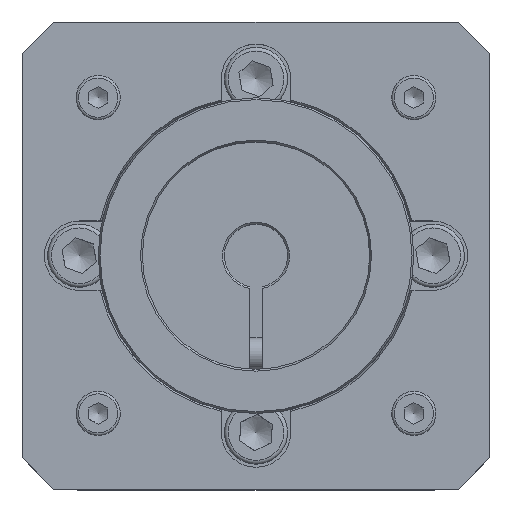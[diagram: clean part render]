
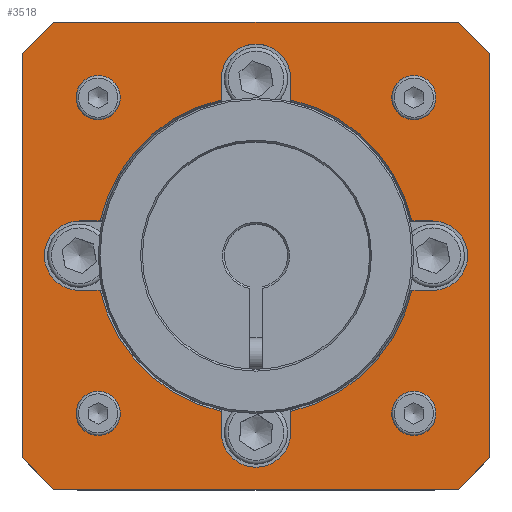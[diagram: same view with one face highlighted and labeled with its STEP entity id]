
A CAD part, top view. The second image highlights one B-rep face of the part: STEP entity #3518.
In plain terms, the highlighted planar face has unit normal (0, 0, 1).
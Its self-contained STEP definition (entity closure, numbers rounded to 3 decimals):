
#268=LINE($,#5978,#470);
#274=LINE($,#5991,#476);
#275=LINE($,#5993,#477);
#276=LINE($,#5995,#478);
#277=LINE($,#5997,#479);
#278=LINE($,#5999,#480);
#279=LINE($,#6001,#481);
#280=LINE($,#6003,#482);
#281=LINE($,#6004,#483);
#282=LINE($,#6006,#484);
#283=LINE($,#6010,#485);
#284=LINE($,#6014,#486);
#285=LINE($,#6018,#487);
#286=LINE($,#6022,#488);
#287=LINE($,#6026,#489);
#288=LINE($,#6030,#490);
#470=VECTOR($,#4736,3.317);
#476=VECTOR($,#4744,7.071);
#477=VECTOR($,#4745,64.);
#478=VECTOR($,#4746,7.071);
#479=VECTOR($,#4747,64.);
#480=VECTOR($,#4748,7.071);
#481=VECTOR($,#4749,64.);
#482=VECTOR($,#4750,7.071);
#483=VECTOR($,#4751,64.);
#484=VECTOR($,#4752,3.317);
#485=VECTOR($,#4755,3.317);
#486=VECTOR($,#4758,3.317);
#487=VECTOR($,#4761,3.317);
#488=VECTOR($,#4764,3.317);
#489=VECTOR($,#4767,3.317);
#490=VECTOR($,#4770,3.317);
#628=PLANE($,#3900);
#828=FACE_BOUND($,#1323,.T.);
#829=FACE_BOUND($,#1324,.T.);
#830=FACE_BOUND($,#1325,.T.);
#831=FACE_BOUND($,#1326,.T.);
#832=FACE_BOUND($,#1327,.T.);
#833=FACE_BOUND($,#1328,.T.);
#1323=EDGE_LOOP($,(#2955));
#1324=EDGE_LOOP($,(#2956));
#1325=EDGE_LOOP($,(#2957));
#1326=EDGE_LOOP($,(#2958));
#1327=EDGE_LOOP($,(#2959,#2960,#2961,#2962,#2963,#2964,#2965,#2966));
#1328=EDGE_LOOP($,(#2967,#2968,#2969,#2970,#2971,#2972,#2973,#2974,#2975,
#2976,#2977,#2978,#2979,#2980,#2981,#2982));
#1572=CIRCLE($,#3886,1.621);
#1574=CIRCLE($,#3889,1.621);
#1576=CIRCLE($,#3892,1.621);
#1578=CIRCLE($,#3895,1.621);
#1579=CIRCLE($,#3897,25.289);
#1581=CIRCLE($,#3901,5.5);
#1582=CIRCLE($,#3902,25.289);
#1583=CIRCLE($,#3903,5.5);
#1584=CIRCLE($,#3904,25.289);
#1585=CIRCLE($,#3905,5.5);
#1586=CIRCLE($,#3906,25.289);
#1587=CIRCLE($,#3907,5.5);
#1833=VERTEX_POINT($,#5946);
#1835=VERTEX_POINT($,#5951);
#1837=VERTEX_POINT($,#5956);
#1839=VERTEX_POINT($,#5961);
#1841=VERTEX_POINT($,#5965);
#1842=VERTEX_POINT($,#5969);
#1844=VERTEX_POINT($,#5977);
#1849=VERTEX_POINT($,#5989);
#1850=VERTEX_POINT($,#5990);
#1851=VERTEX_POINT($,#5992);
#1852=VERTEX_POINT($,#5994);
#1853=VERTEX_POINT($,#5996);
#1854=VERTEX_POINT($,#5998);
#1855=VERTEX_POINT($,#6000);
#1856=VERTEX_POINT($,#6002);
#1857=VERTEX_POINT($,#6005);
#1858=VERTEX_POINT($,#6007);
#1859=VERTEX_POINT($,#6009);
#1860=VERTEX_POINT($,#6011);
#1861=VERTEX_POINT($,#6013);
#1862=VERTEX_POINT($,#6015);
#1863=VERTEX_POINT($,#6017);
#1864=VERTEX_POINT($,#6019);
#1865=VERTEX_POINT($,#6021);
#1866=VERTEX_POINT($,#6023);
#1867=VERTEX_POINT($,#6025);
#1868=VERTEX_POINT($,#6027);
#1869=VERTEX_POINT($,#6029);
#2231=EDGE_CURVE($,#1833,#1833,#1572,.T.);
#2233=EDGE_CURVE($,#1835,#1835,#1574,.T.);
#2235=EDGE_CURVE($,#1837,#1837,#1576,.T.);
#2237=EDGE_CURVE($,#1839,#1839,#1578,.T.);
#2239=EDGE_CURVE($,#1841,#1842,#1579,.T.);
#2242=EDGE_CURVE($,#1844,#1842,#268,.T.);
#2248=EDGE_CURVE($,#1849,#1850,#274,.T.);
#2249=EDGE_CURVE($,#1851,#1849,#275,.T.);
#2250=EDGE_CURVE($,#1852,#1851,#276,.T.);
#2251=EDGE_CURVE($,#1853,#1852,#277,.T.);
#2252=EDGE_CURVE($,#1854,#1853,#278,.T.);
#2253=EDGE_CURVE($,#1855,#1854,#279,.T.);
#2254=EDGE_CURVE($,#1856,#1855,#280,.T.);
#2255=EDGE_CURVE($,#1850,#1856,#281,.T.);
#2256=EDGE_CURVE($,#1841,#1857,#282,.T.);
#2257=EDGE_CURVE($,#1857,#1858,#1581,.T.);
#2258=EDGE_CURVE($,#1858,#1859,#283,.T.);
#2259=EDGE_CURVE($,#1860,#1859,#1582,.T.);
#2260=EDGE_CURVE($,#1860,#1861,#284,.T.);
#2261=EDGE_CURVE($,#1861,#1862,#1583,.T.);
#2262=EDGE_CURVE($,#1862,#1863,#285,.T.);
#2263=EDGE_CURVE($,#1864,#1863,#1584,.T.);
#2264=EDGE_CURVE($,#1864,#1865,#286,.T.);
#2265=EDGE_CURVE($,#1865,#1866,#1585,.T.);
#2266=EDGE_CURVE($,#1866,#1867,#287,.T.);
#2267=EDGE_CURVE($,#1868,#1867,#1586,.T.);
#2268=EDGE_CURVE($,#1868,#1869,#288,.T.);
#2269=EDGE_CURVE($,#1869,#1844,#1587,.T.);
#2955=ORIENTED_EDGE($,*,*,#2231,.T.);
#2956=ORIENTED_EDGE($,*,*,#2233,.T.);
#2957=ORIENTED_EDGE($,*,*,#2235,.T.);
#2958=ORIENTED_EDGE($,*,*,#2237,.T.);
#2959=ORIENTED_EDGE($,*,*,#2248,.F.);
#2960=ORIENTED_EDGE($,*,*,#2249,.F.);
#2961=ORIENTED_EDGE($,*,*,#2250,.F.);
#2962=ORIENTED_EDGE($,*,*,#2251,.F.);
#2963=ORIENTED_EDGE($,*,*,#2252,.F.);
#2964=ORIENTED_EDGE($,*,*,#2253,.F.);
#2965=ORIENTED_EDGE($,*,*,#2254,.F.);
#2966=ORIENTED_EDGE($,*,*,#2255,.F.);
#2967=ORIENTED_EDGE($,*,*,#2239,.F.);
#2968=ORIENTED_EDGE($,*,*,#2256,.T.);
#2969=ORIENTED_EDGE($,*,*,#2257,.T.);
#2970=ORIENTED_EDGE($,*,*,#2258,.T.);
#2971=ORIENTED_EDGE($,*,*,#2259,.F.);
#2972=ORIENTED_EDGE($,*,*,#2260,.T.);
#2973=ORIENTED_EDGE($,*,*,#2261,.T.);
#2974=ORIENTED_EDGE($,*,*,#2262,.T.);
#2975=ORIENTED_EDGE($,*,*,#2263,.F.);
#2976=ORIENTED_EDGE($,*,*,#2264,.T.);
#2977=ORIENTED_EDGE($,*,*,#2265,.T.);
#2978=ORIENTED_EDGE($,*,*,#2266,.T.);
#2979=ORIENTED_EDGE($,*,*,#2267,.F.);
#2980=ORIENTED_EDGE($,*,*,#2268,.T.);
#2981=ORIENTED_EDGE($,*,*,#2269,.T.);
#2982=ORIENTED_EDGE($,*,*,#2242,.T.);
#3518=ADVANCED_FACE($,(#828,#829,#830,#831,#832,#833),#628,.T.);
#3886=AXIS2_PLACEMENT_3D($,#5947,#4708,#4709);
#3889=AXIS2_PLACEMENT_3D($,#5952,#4714,#4715);
#3892=AXIS2_PLACEMENT_3D($,#5957,#4720,#4721);
#3895=AXIS2_PLACEMENT_3D($,#5962,#4726,#4727);
#3897=AXIS2_PLACEMENT_3D($,#5970,#4730,#4731);
#3900=AXIS2_PLACEMENT_3D($,#5988,#4742,#4743);
#3901=AXIS2_PLACEMENT_3D($,#6008,#4753,#4754);
#3902=AXIS2_PLACEMENT_3D($,#6012,#4756,#4757);
#3903=AXIS2_PLACEMENT_3D($,#6016,#4759,#4760);
#3904=AXIS2_PLACEMENT_3D($,#6020,#4762,#4763);
#3905=AXIS2_PLACEMENT_3D($,#6024,#4765,#4766);
#3906=AXIS2_PLACEMENT_3D($,#6028,#4768,#4769);
#3907=AXIS2_PLACEMENT_3D($,#6031,#4771,#4772);
#4708=DIRECTION('center_axis',(0.,0.,-1.));
#4709=DIRECTION('ref_axis',(1.,0.,0.));
#4714=DIRECTION('center_axis',(0.,0.,-1.));
#4715=DIRECTION('ref_axis',(1.,0.,0.));
#4720=DIRECTION('center_axis',(0.,0.,-1.));
#4721=DIRECTION('ref_axis',(1.,0.,0.));
#4726=DIRECTION('center_axis',(0.,0.,-1.));
#4727=DIRECTION('ref_axis',(1.,0.,0.));
#4730=DIRECTION('center_axis',(0.,0.,1.));
#4731=DIRECTION('ref_axis',(0.,-1.,0.));
#4736=DIRECTION($,(0.,1.,0.));
#4742=DIRECTION('center_axis',(0.,0.,1.));
#4743=DIRECTION('ref_axis',(1.,0.,0.));
#4744=DIRECTION($,(0.707,-0.707,0.));
#4745=DIRECTION($,(1.,0.,0.));
#4746=DIRECTION($,(0.707,0.707,0.));
#4747=DIRECTION($,(0.,1.,0.));
#4748=DIRECTION($,(-0.707,0.707,0.));
#4749=DIRECTION($,(-1.,0.,0.));
#4750=DIRECTION($,(-0.707,-0.707,0.));
#4751=DIRECTION($,(0.,-1.,0.));
#4752=DIRECTION($,(-1.,0.,0.));
#4753=DIRECTION('center_axis',(0.,0.,-1.));
#4754=DIRECTION('ref_axis',(1.,0.,0.));
#4755=DIRECTION($,(1.,0.,0.));
#4756=DIRECTION('center_axis',(0.,0.,1.));
#4757=DIRECTION('ref_axis',(0.,1.,0.));
#4758=DIRECTION($,(0.,1.,0.));
#4759=DIRECTION('center_axis',(0.,0.,-1.));
#4760=DIRECTION('ref_axis',(1.,0.,0.));
#4761=DIRECTION($,(0.,-1.,0.));
#4762=DIRECTION('center_axis',(0.,0.,1.));
#4763=DIRECTION('ref_axis',(0.,1.,0.));
#4764=DIRECTION($,(1.,0.,0.));
#4765=DIRECTION('center_axis',(0.,0.,-1.));
#4766=DIRECTION('ref_axis',(1.,0.,0.));
#4767=DIRECTION($,(-1.,0.,0.));
#4768=DIRECTION('center_axis',(0.,0.,1.));
#4769=DIRECTION('ref_axis',(0.,-1.,0.));
#4770=DIRECTION($,(0.,-1.,0.));
#4771=DIRECTION('center_axis',(0.,0.,-1.));
#4772=DIRECTION('ref_axis',(1.,0.,0.));
#5946=CARTESIAN_POINT('',(-23.379,-25.,16.));
#5947=CARTESIAN_POINT('Origin',(-25.,-25.,16.));
#5951=CARTESIAN_POINT('',(26.621,-25.,16.));
#5952=CARTESIAN_POINT('Origin',(25.,-25.,16.));
#5956=CARTESIAN_POINT('',(26.621,25.,16.));
#5957=CARTESIAN_POINT('Origin',(25.,25.,16.));
#5961=CARTESIAN_POINT('',(-23.379,25.,16.));
#5962=CARTESIAN_POINT('Origin',(-25.,25.,16.));
#5965=CARTESIAN_POINT('',(-24.683,-5.5,16.));
#5969=CARTESIAN_POINT('',(-5.5,-24.683,16.));
#5970=CARTESIAN_POINT('Origin',(0.,0.,16.));
#5977=CARTESIAN_POINT('',(-5.5,-28.,16.));
#5978=CARTESIAN_POINT($,(-5.5,-2.75,16.));
#5988=CARTESIAN_POINT('Origin',(0.,0.,16.));
#5989=CARTESIAN_POINT('',(32.,37.,16.));
#5990=CARTESIAN_POINT('',(37.,32.,16.));
#5991=CARTESIAN_POINT($,(34.5,34.5,16.));
#5992=CARTESIAN_POINT('',(-32.,37.,16.));
#5993=CARTESIAN_POINT($,(-37.,37.,16.));
#5994=CARTESIAN_POINT('',(-37.,32.,16.));
#5995=CARTESIAN_POINT($,(-34.5,34.5,16.));
#5996=CARTESIAN_POINT('',(-37.,-32.,16.));
#5997=CARTESIAN_POINT($,(-37.,-37.,16.));
#5998=CARTESIAN_POINT('',(-32.,-37.,16.));
#5999=CARTESIAN_POINT($,(-34.5,-34.5,16.));
#6000=CARTESIAN_POINT('',(32.,-37.,16.));
#6001=CARTESIAN_POINT($,(37.,-37.,16.));
#6002=CARTESIAN_POINT('',(37.,-32.,16.));
#6003=CARTESIAN_POINT($,(34.5,-34.5,16.));
#6004=CARTESIAN_POINT($,(37.,37.,16.));
#6005=CARTESIAN_POINT('',(-28.,-5.5,16.));
#6006=CARTESIAN_POINT($,(-14.,-5.5,16.));
#6007=CARTESIAN_POINT('',(-28.,5.5,16.));
#6008=CARTESIAN_POINT('Origin',(-28.,0.,16.));
#6009=CARTESIAN_POINT('',(-24.683,5.5,16.));
#6010=CARTESIAN_POINT($,(-2.75,5.5,16.));
#6011=CARTESIAN_POINT('',(-5.5,24.683,16.));
#6012=CARTESIAN_POINT('Origin',(0.,0.,16.));
#6013=CARTESIAN_POINT('',(-5.5,28.,16.));
#6014=CARTESIAN_POINT($,(-5.5,14.,16.));
#6015=CARTESIAN_POINT('',(5.5,28.,16.));
#6016=CARTESIAN_POINT('Origin',(0.,28.,16.));
#6017=CARTESIAN_POINT('',(5.5,24.683,16.));
#6018=CARTESIAN_POINT($,(5.5,2.75,16.));
#6019=CARTESIAN_POINT('',(24.683,5.5,16.));
#6020=CARTESIAN_POINT('Origin',(0.,0.,16.));
#6021=CARTESIAN_POINT('',(28.,5.5,16.));
#6022=CARTESIAN_POINT($,(14.,5.5,16.));
#6023=CARTESIAN_POINT('',(28.,-5.5,16.));
#6024=CARTESIAN_POINT('Origin',(28.,0.,16.));
#6025=CARTESIAN_POINT('',(24.683,-5.5,16.));
#6026=CARTESIAN_POINT($,(2.75,-5.5,16.));
#6027=CARTESIAN_POINT('',(5.5,-24.683,16.));
#6028=CARTESIAN_POINT('Origin',(0.,0.,16.));
#6029=CARTESIAN_POINT('',(5.5,-28.,16.));
#6030=CARTESIAN_POINT($,(5.5,-14.,16.));
#6031=CARTESIAN_POINT('Origin',(0.,-28.,16.));
